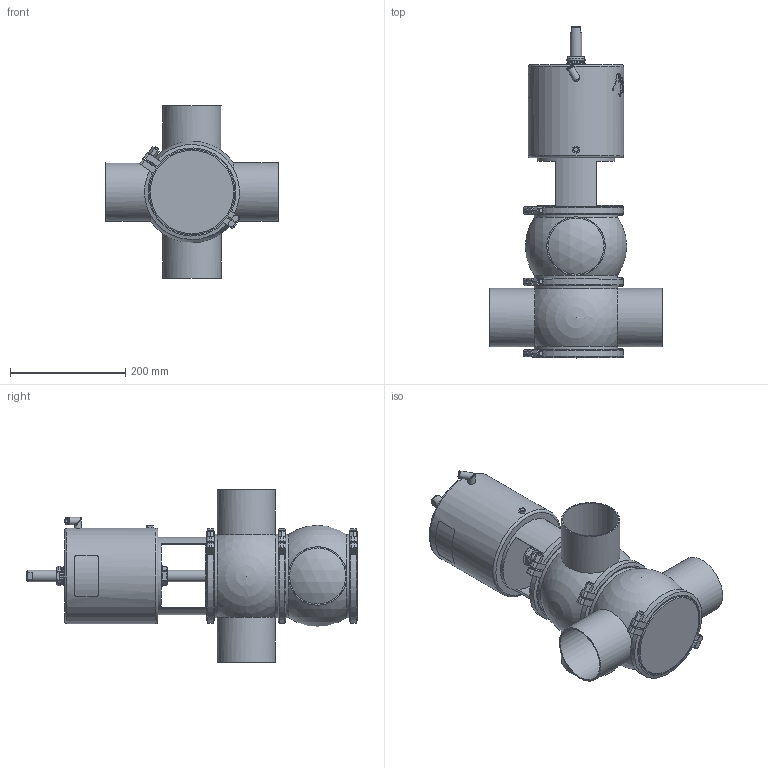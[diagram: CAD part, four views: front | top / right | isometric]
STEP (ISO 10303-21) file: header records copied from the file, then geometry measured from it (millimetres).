
FILE_DESCRIPTION (( 'STEP AP214' ), '1' );
FILE_NAME ('INNOVA M C W OD 4 T4 AS NC_10.241.16.0007.STEP', '2024-08-07T12:43:04', ( '' ), ( '' ), 'SwSTEP 2.0', 'SolidWorks 2023', '' );
FILE_SCHEMA (( 'AUTOMOTIVE_DESIGN' ));
Length unit declared in the file: millimetre
Products named in the file (6): 10.240.15.0001_DN 100; 10.240.15.0007_OD 4"; 10.240.15.0014_T4 AS P180; 10.241.15.0001_DIN 100; 10.240.15.0010_DN 100; INNOVA M C W OD 4 T4 AS NC_10.241.16.0007
Assembly tree (8 placements, depth 2):
  INNOVA M C W OD 4 T4 AS NC_10.241.16.0007
    10.240.15.0007_OD 4"  x2
    10.240.15.0010_DN 100
    10.240.15.0014_T4 AS P180
    10.240.15.0001_DN 100  x3
    10.241.15.0001_DIN 100
Bounding box: 300 x 576.5 x 300 mm (x, y, z)
Volume: 9470816.6 mm3; surface area: 768810.6 mm2
Topology: 9 solids, 9 shells, 469 faces, 1253 edges, 817 vertices
Faces by surface type: plane 227, cylinder 114, bspline 80, cone 36, sphere 8, torus 4
Full cylindrical faces by diameter (mm): 6.15 x1, 8 x7, 8.5 x1, 10.5 x1, 12.5 x3, 16 x1, 20 x2, 31 x1, 34.5 x2, 36.5 x1, 97.4 x4, 101.6 x4, 135 x1, 144.5 x5, 156.5 x6, 166 x1
Entity records: 20553 total; most frequent: CARTESIAN_POINT 11327, ORIENTED_EDGE 1616, DIRECTION 1231, EDGE_CURVE 808, VERTEX_POINT 555, AXIS2_PLACEMENT_3D 471, EDGE_LOOP 405, FACE_OUTER_BOUND 366
